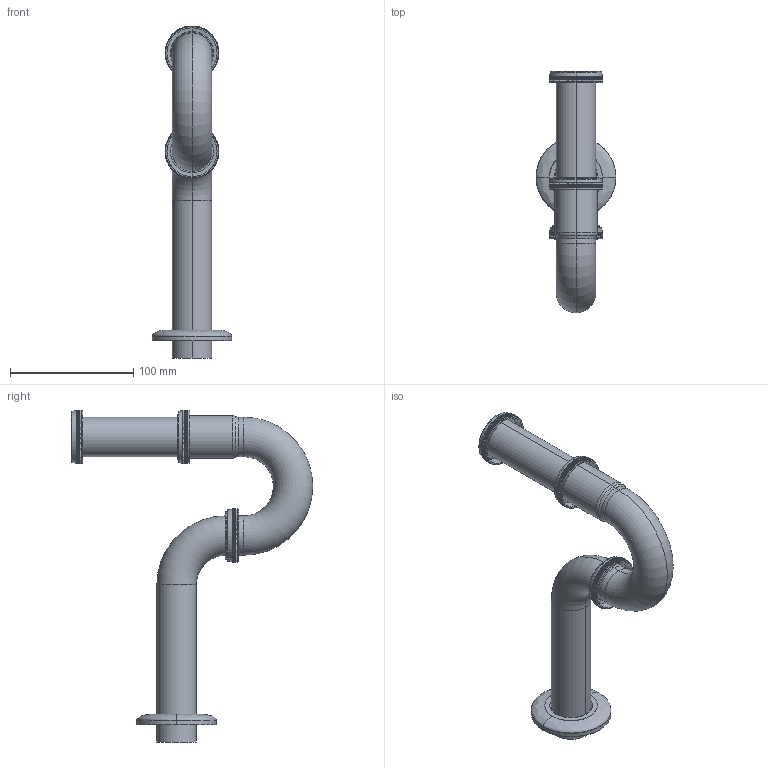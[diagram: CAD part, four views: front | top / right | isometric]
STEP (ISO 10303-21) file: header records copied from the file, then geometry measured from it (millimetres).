
FILE_DESCRIPTION (( 'STEP AP203' ), '1' );
FILE_NAME ('SF152.STEP', '2016-08-15T10:10:39', ( '' ), ( '' ), 'SwSTEP 2.0', 'SolidWorks 2016', '' );
FILE_SCHEMA (( 'CONFIG_CONTROL_DESIGN' ));
Length unit declared in the file: millimetre
Products named in the file (1): SF152
Bounding box: 64.75 x 195.98 x 269.35 mm (x, y, z)
Volume: 389935.3 mm3; surface area: 71701.3 mm2
Topology: 7 solids, 7 shells, 1662 faces, 4872 edges, 3232 vertices
Faces by surface type: plane 1192, cylinder 432, cone 18, torus 16, bspline 4
Entity records: 56637 total; most frequent: CARTESIAN_POINT 11557, ORIENTED_EDGE 9744, DIRECTION 9074, EDGE_CURVE 4872, VECTOR 3960, LINE 3960, VERTEX_POINT 3232, AXIS2_PLACEMENT_3D 2557
